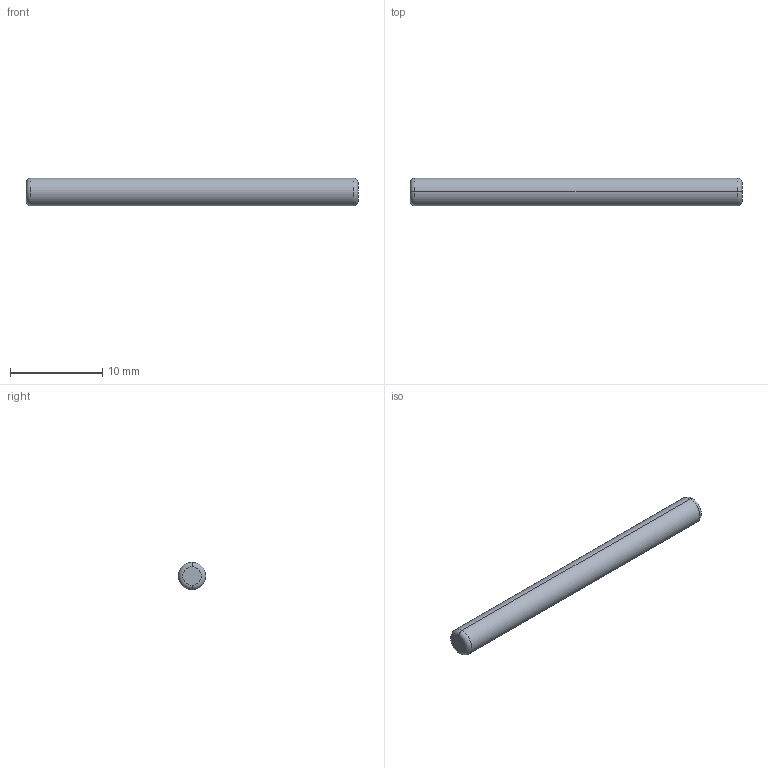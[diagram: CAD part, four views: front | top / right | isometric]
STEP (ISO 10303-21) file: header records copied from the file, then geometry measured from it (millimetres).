
FILE_DESCRIPTION (( 'STEP AP214' ), '1' );
FILE_NAME ('PAS-3x36.STEP', '2020-06-22T10:32:51', ( 'August' ), ( '' ), 'SwSTEP 2.0', 'SolidWorks 2018', '' );
FILE_SCHEMA (( 'AUTOMOTIVE_DESIGN' ));
Length unit declared in the file: millimetre
Products named in the file (1): PAS-3x36
Bounding box: 36 x 3 x 3 mm (x, y, z)
Volume: 253.5 mm3; surface area: 349.2 mm2
Topology: 1 solids, 1 shells, 8 faces, 14 edges, 8 vertices
Faces by surface type: torus 4, cylinder 2, plane 2
Entity records: 232 total; most frequent: DIRECTION 44, CARTESIAN_POINT 31, ORIENTED_EDGE 28, AXIS2_PLACEMENT_3D 21, EDGE_CURVE 14, CIRCLE 12, ADVANCED_FACE 8, FACE_OUTER_BOUND 8
